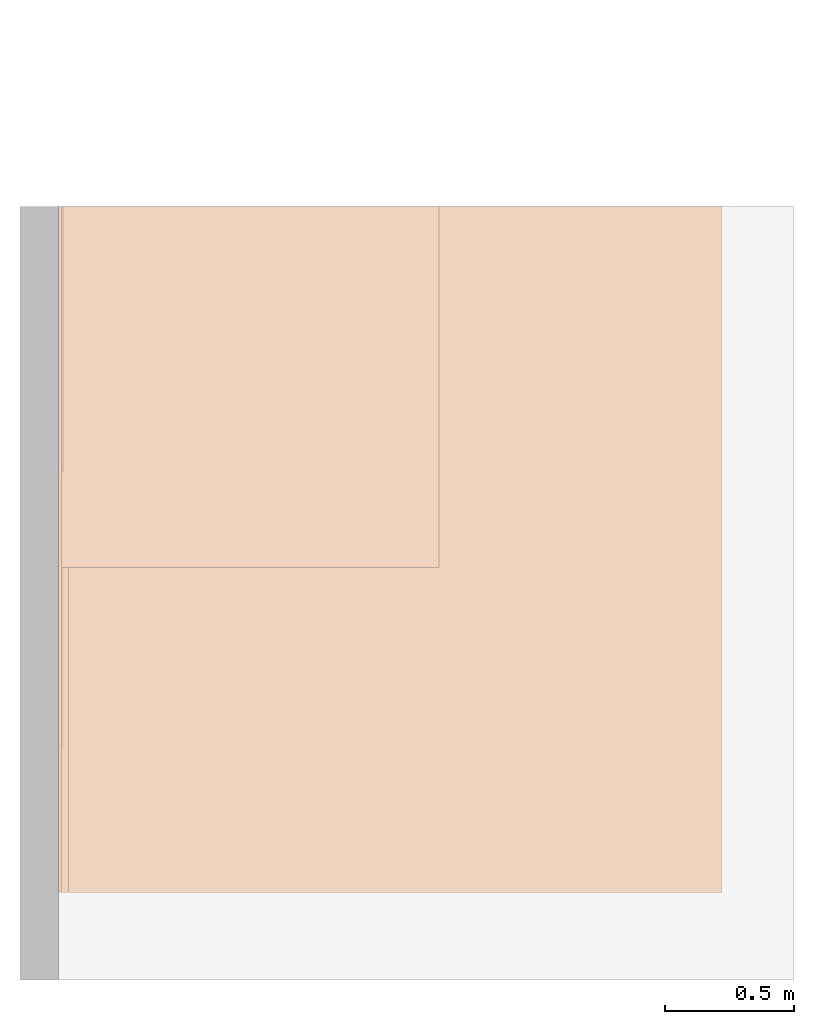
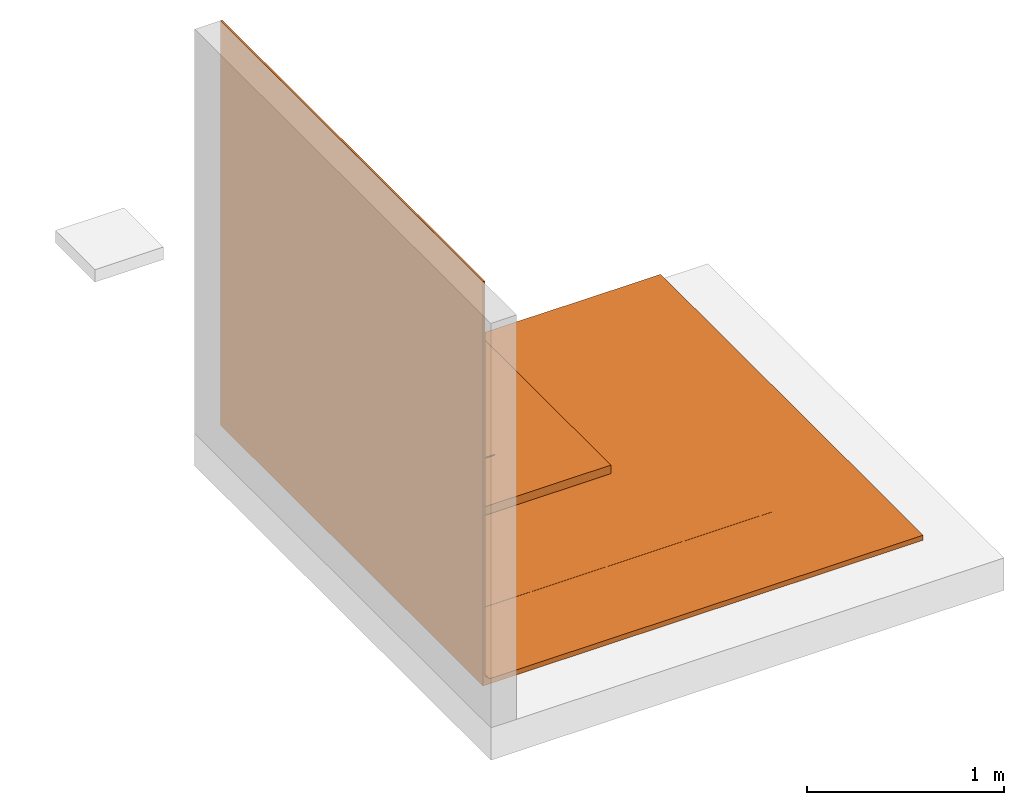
# One storey, part 2 of 2: 1 proxy.
"""IFC2X3 building model written with IfcOpenShell, lengths in metres."""

from ifc_helpers import new_model, entity, si_unit, converted_unit, derived_unit, direction, frame, frame_2d, origin, origin_2d_with_axis, place, context, subcontext, project, spatial, polyline, circle_curve, parameter, trimmed, segment, composite_curve, rectangle, outline, extrude, source, transform, mapped, material, material_list, type_object, type_shapes, element, save


model = new_model("IFC2X3")

# Units and contexts
model_context = context("Model", 3, precision=1e-05, world=origin(), true_north=direction((6.123031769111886e-17, 1.0)))
body_context = subcontext(model_context, "Body", "Model", "MODEL_VIEW")
ifc_project = project(units=[si_unit("LENGTHUNIT", "METRE"), si_unit("AREAUNIT", "SQUARE_METRE"), si_unit("VOLUMEUNIT", "CUBIC_METRE"), converted_unit("PLANEANGLEUNIT", "DEGREE", entity("IfcRatioMeasure", 0.017453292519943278), si_unit("PLANEANGLEUNIT", "RADIAN"), dimensions=[0, 0, 0, 0, 0, 0, 0]), si_unit("MASSUNIT", "GRAM", prefix="KILO"), derived_unit("MASSDENSITYUNIT", [(si_unit("MASSUNIT", "GRAM", prefix="KILO"), 1), (si_unit("LENGTHUNIT", "METRE"), -3)]), derived_unit("IONCONCENTRATIONUNIT", [(si_unit("MASSUNIT", "GRAM", prefix="KILO"), 1), (si_unit("LENGTHUNIT", "METRE"), -3)]), derived_unit("MOMENTOFINERTIAUNIT", [(si_unit("LENGTHUNIT", "METRE"), 4)]), si_unit("TIMEUNIT", "SECOND"), si_unit("FREQUENCYUNIT", "HERTZ"), si_unit("THERMODYNAMICTEMPERATUREUNIT", "DEGREE_CELSIUS"), derived_unit("THERMALTRANSMITTANCEUNIT", [(si_unit("MASSUNIT", "GRAM", prefix="KILO"), 1), (si_unit("THERMODYNAMICTEMPERATUREUNIT", "KELVIN"), -1), (si_unit("TIMEUNIT", "SECOND"), -3)]), derived_unit("THERMALCONDUCTANCEUNIT", [(si_unit("MASSUNIT", "GRAM", prefix="KILO"), 1), (si_unit("THERMODYNAMICTEMPERATUREUNIT", "KELVIN"), -1), (si_unit("TIMEUNIT", "SECOND"), -3), (si_unit("LENGTHUNIT", "METRE"), 1)]), derived_unit("VOLUMETRICFLOWRATEUNIT", [(si_unit("LENGTHUNIT", "METRE"), 3), (si_unit("TIMEUNIT", "SECOND"), -1)]), derived_unit("MASSFLOWRATEUNIT", [(si_unit("MASSUNIT", "GRAM", prefix="KILO"), 1), (si_unit("TIMEUNIT", "SECOND"), -1)]), derived_unit("ROTATIONALFREQUENCYUNIT", [(si_unit("TIMEUNIT", "SECOND"), -1)]), si_unit("ELECTRICCURRENTUNIT", "AMPERE"), si_unit("ELECTRICVOLTAGEUNIT", "VOLT"), si_unit("POWERUNIT", "WATT"), si_unit("FORCEUNIT", "NEWTON", prefix="KILO"), si_unit("ILLUMINANCEUNIT", "LUX"), si_unit("LUMINOUSFLUXUNIT", "LUMEN"), si_unit("LUMINOUSINTENSITYUNIT", "CANDELA"), derived_unit("USERDEFINED", [(si_unit("MASSUNIT", "GRAM", prefix="KILO"), -1), (si_unit("LENGTHUNIT", "METRE"), -2), (si_unit("TIMEUNIT", "SECOND"), 3), (si_unit("LUMINOUSFLUXUNIT", "LUMEN"), 1)]), derived_unit("USERDEFINED", [(si_unit("MASSUNIT", "GRAM", prefix="KILO"), 1), (si_unit("TIMEUNIT", "SECOND"), -3), (si_unit("LENGTHUNIT", "METRE"), 3), (si_unit("ELECTRICCURRENTUNIT", "AMPERE"), -2)]), derived_unit("SOUNDPOWERUNIT", [(si_unit("MASSUNIT", "GRAM", prefix="KILO"), 1), (si_unit("TIMEUNIT", "SECOND"), -3), (si_unit("LENGTHUNIT", "METRE"), 2)]), derived_unit("SOUNDPRESSUREUNIT", [(si_unit("MASSUNIT", "GRAM", prefix="KILO"), 1), (si_unit("LENGTHUNIT", "METRE"), -1), (si_unit("TIMEUNIT", "SECOND"), -2)]), derived_unit("LINEARVELOCITYUNIT", [(si_unit("LENGTHUNIT", "METRE"), 1), (si_unit("TIMEUNIT", "SECOND"), -1)]), si_unit("PRESSUREUNIT", "PASCAL"), derived_unit("USERDEFINED", [(si_unit("MASSUNIT", "GRAM", prefix="KILO"), 1), (si_unit("LENGTHUNIT", "METRE"), -2), (si_unit("TIMEUNIT", "SECOND"), -2)]), derived_unit("LINEARFORCEUNIT", [(si_unit("MASSUNIT", "GRAM", prefix="KILO"), 1), (si_unit("TIMEUNIT", "SECOND"), -2)]), derived_unit("PLANARFORCEUNIT", [(si_unit("MASSUNIT", "GRAM", prefix="KILO"), 1), (si_unit("LENGTHUNIT", "METRE"), -1), (si_unit("TIMEUNIT", "SECOND"), -2)]), derived_unit("SPECIFICHEATCAPACITYUNIT", [(si_unit("THERMODYNAMICTEMPERATUREUNIT", "KELVIN"), -1), (si_unit("LENGTHUNIT", "METRE"), 2), (si_unit("TIMEUNIT", "SECOND"), -2)]), derived_unit("HEATINGVALUEUNIT", [(si_unit("LENGTHUNIT", "METRE"), 2), (si_unit("TIMEUNIT", "SECOND"), -2)]), derived_unit("VAPORPERMEABILITYUNIT", [(si_unit("LENGTHUNIT", "METRE"), -1), (si_unit("TIMEUNIT", "SECOND"), 1)]), derived_unit("DYNAMICVISCOSITYUNIT", [(si_unit("MASSUNIT", "GRAM", prefix="KILO"), 1), (si_unit("TIMEUNIT", "SECOND"), -1), (si_unit("LENGTHUNIT", "METRE"), -1)]), derived_unit("THERMALEXPANSIONCOEFFICIENTUNIT", [(si_unit("THERMODYNAMICTEMPERATUREUNIT", "KELVIN"), -1)]), derived_unit("MODULUSOFELASTICITYUNIT", [(si_unit("MASSUNIT", "GRAM", prefix="KILO"), 1), (si_unit("LENGTHUNIT", "METRE"), -1), (si_unit("TIMEUNIT", "SECOND"), -2)]), derived_unit("ISOTHERMALMOISTURECAPACITYUNIT", [(si_unit("LENGTHUNIT", "METRE"), 3), (si_unit("MASSUNIT", "GRAM", prefix="KILO"), -1)]), derived_unit("MOISTUREDIFFUSIVITYUNIT", [(si_unit("TIMEUNIT", "SECOND"), -1), (si_unit("LENGTHUNIT", "METRE"), 2)])], contexts=[model_context])

# Site, building, storey
site_placement = place(None, origin())
site = spatial("IfcSite", under=ifc_project, at=site_placement, Name="Default", CompositionType="ELEMENT")
building_placement = place(site_placement, origin())
building = spatial("IfcBuilding", under=site, at=building_placement, CompositionType="ELEMENT")
storey_placement = place(building_placement, frame((0.0, 0.0, -0.0025237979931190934)))
storey = spatial("IfcBuildingStorey", under=building, at=storey_placement, Name="ARQ Térreo", CompositionType="ELEMENT", Elevation=-0.0025237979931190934)

# Proxy
ifc_material_1 = material(Name="#argamassa")
ifc_material_2 = material(Name="#Emulsão Viapol Antirruido")
ifc_material_3 = material(Name="#proteção mecânica")
ifc_material_4 = material(Name="#selante")
ifc_material_5 = material(Name="#revestimento")
ifc_material_list = material_list([ifc_material_1, ifc_material_2, ifc_material_3, ifc_material_4, ifc_material_5])
building_element_proxy_type = type_object("IfcBuildingElementProxyType", Name="IMPER:IMPER", PredefinedType="NOTDEFINED", material=ifc_material_list)
shared_shape = source(origin(), body_context, "Body", "SweptSolid", [
    extrude(rectangle(XDim=2.66, YDim=0.011011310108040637, at=origin_2d_with_axis()), frame((-0.346464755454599, -1.1841299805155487, -0.0025237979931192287), z_axis=(0.0, 0.0, 1.0), x_axis=(0.0, -1.0, 0.0)), (0.0, 0.0, 1.0), 2.4999999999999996),
    extrude(outline(composite_curve([segment(polyline([(-0.006777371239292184, -1.5321376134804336), (0.024248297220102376, -1.5321376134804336)]), True, "CONTINUOUS"), segment(polyline([(0.024248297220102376, -1.5321376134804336), (0.024248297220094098, 1.0306813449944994)]), True, "CONTINUOUS"), segment(polyline([(0.024248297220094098, 1.0306813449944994), (-0.034941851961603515, 1.0306813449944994)]), True, "CONTINUOUS"), segment(trimmed(circle_curve(frame_2d((-0.03575170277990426, 1.0016926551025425), x_axis=(0.0, -1.0)), 0.028999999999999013), [parameter(92.4108521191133)], [parameter(178.39975630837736)], True, "PARAMETER"), False, "CONTINUOUS"), segment(polyline([(-0.006777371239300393, 1.0029125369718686), (-0.006777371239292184, -1.5321376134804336)]), True, "CONTINUOUS")], self_intersect=False)), frame((0.6897222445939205, -2.514129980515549, 0.021724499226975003), z_axis=(0.0, 1.0, 0.0), x_axis=(0.0, 0.0, -1.0)), (0.0, 0.0, 1.0), 2.660000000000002),
    extrude(outline(composite_curve([segment(polyline([(-1.4958051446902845, -0.02079288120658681), (0.4804260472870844, -0.020792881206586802)]), True, "CONTINUOUS"), segment(trimmed(circle_curve(frame_2d((0.47920616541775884, 0.00818145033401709), x_axis=(-1.0, 0.0)), 0.028999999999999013), [parameter(92.41085211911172)], [parameter(178.39975630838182)], True, "PARAMETER"), True, "CONTINUOUS"), segment(polyline([(0.5081948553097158, 0.0073715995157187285), (0.5081948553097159, 0.033207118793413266)]), True, "CONTINUOUS"), segment(polyline([(0.5081948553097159, 0.033207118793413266), (0.507194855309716, 0.033207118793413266)]), True, "CONTINUOUS"), segment(polyline([(0.507194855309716, 0.033207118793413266), (0.5071948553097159, 0.0073856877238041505)]), True, "CONTINUOUS"), segment(trimmed(circle_curve(frame_2d((0.47920616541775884, 0.00818145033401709), x_axis=(-1.0, 0.0)), 0.027999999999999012), [parameter(92.4535318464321)], [parameter(178.37142932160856)], True, "PARAMETER"), False, "CONTINUOUS"), segment(polyline([(0.4804048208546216, -0.01979288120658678), (-1.495805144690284, -0.019792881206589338)]), True, "CONTINUOUS"), segment(polyline([(-1.4958051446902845, -0.019792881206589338), (-1.4958051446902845, -0.02079288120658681)]), True, "CONTINUOUS")], self_intersect=False)), frame((0.16723575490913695, -1.9541299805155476, 0.049294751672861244), z_axis=(0.0, 1.0, 0.0), x_axis=(-1.0, 0.0, 0.0)), (0.0, 0.0, 1.0), 2.1000000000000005),
    extrude(outline(composite_curve([segment(trimmed(circle_curve(frame_2d((-0.5625693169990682, -0.0013386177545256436), x_axis=(1.0, 0.0)), 0.027999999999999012), [parameter(92.45353184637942)], [parameter(178.3714293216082)], True, "PARAMETER"), True, "CONTINUOUS"), segment(polyline([(-0.5905580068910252, -0.0005428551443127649), (-0.5905580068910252, -0.026364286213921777)]), True, "CONTINUOUS"), segment(polyline([(-0.5905580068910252, -0.026364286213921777), (0.8724419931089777, -0.026364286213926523)]), True, "CONTINUOUS"), segment(polyline([(0.8724419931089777, -0.026364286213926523), (0.8724419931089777, 0.026635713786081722)]), True, "CONTINUOUS"), segment(polyline([(0.8724419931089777, 0.026635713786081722), (-0.5637679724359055, 0.026635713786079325)]), True, "CONTINUOUS")], self_intersect=False)), frame((0.25059890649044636, -1.254129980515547, 0.05613758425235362), z_axis=(0.0, 1.0, 0.0), x_axis=(1.0, 0.0, 0.0)), (0.0, 0.0, 1.0), 1.3999999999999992),
    extrude(rectangle(XDim=0.004999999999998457, YDim=1.4000000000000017, at=origin_2d_with_axis()), frame((-0.3384591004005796, -0.5541299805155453, 0.08250187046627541), z_axis=(0.0, 0.0, 1.0), x_axis=(-1.0, 0.0, 0.0)), (0.0, 0.0, 1.0), 0.004999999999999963),
    extrude(outline(polyline([(-0.6646564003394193, -0.0329849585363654), (0.3348282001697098, -0.0329849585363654), (0.3348282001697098, 0.06096991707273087), (0.3298282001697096, 0.06096991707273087), (0.3298282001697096, -0.027984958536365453), (-0.6646564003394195, -0.027984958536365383), (-0.6646564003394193, -0.0329849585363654)])), frame((-0.006130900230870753, -0.8840129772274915, 0.11548682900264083), z_axis=(0.0, 1.0, 0.0), x_axis=(-1.0, 0.0, 0.0)), (0.0, 0.0, 1.0), 1.0298829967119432),
])
type_shapes(building_element_proxy_type, [shared_shape])
proxy_placement = place(storey_placement, frame((0.0, 0.0, 0.0025237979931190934)))
element("IfcBuildingElementProxy", 1, at=proxy_placement, inside=storey, type_object=building_element_proxy_type, material=ifc_material_list, Name="IMPER:IMPER:IMPER : IMPER:IMPER", ObjectType="IMPER:IMPER:IMPER : IMPER:IMPER", context=body_context, shape_type="MappedRepresentation", body=[
    mapped(shared_shape, transform((0.0, 0.0, 0.0), scale=1.0)),
])

save(model, "model.ifc")
